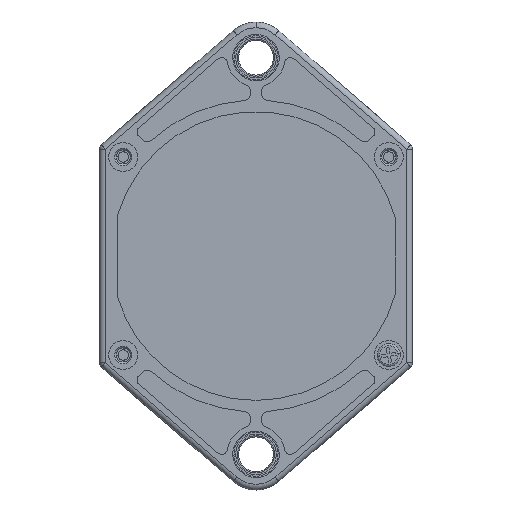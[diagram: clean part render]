
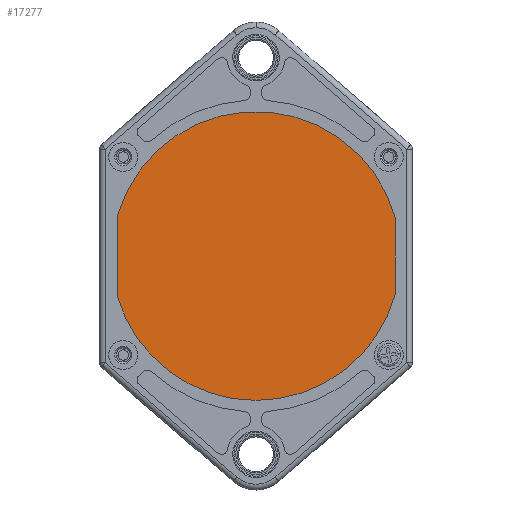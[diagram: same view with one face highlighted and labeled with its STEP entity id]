
A CAD part, front view. The second image highlights one B-rep face of the part: STEP entity #17277.
In plain terms, the highlighted planar face has unit normal (0, -1, 0).
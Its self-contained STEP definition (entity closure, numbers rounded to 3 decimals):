
#204 = CARTESIAN_POINT ( 'NONE',  ( 0., 0.4, 0. ) ) ;
#525 = VECTOR ( 'NONE', #17669, 1000. ) ;
#974 = ORIENTED_EDGE ( 'NONE', *, *, #14859, .T. ) ;
#1319 = CARTESIAN_POINT ( 'NONE',  ( 24., 0.4, -6.634 ) ) ;
#2257 = ORIENTED_EDGE ( 'NONE', *, *, #11608, .T. ) ;
#3275 = AXIS2_PLACEMENT_3D ( 'NONE', #21253, #10626, #25573 ) ;
#3409 = ORIENTED_EDGE ( 'NONE', *, *, #14736, .T. ) ;
#5439 = CARTESIAN_POINT ( 'NONE',  ( 24., 0.4, 6.634 ) ) ;
#5525 = DIRECTION ( 'NONE',  ( 0., 0., -1. ) ) ;
#5651 = VERTEX_POINT ( 'NONE', #27381 ) ;
#5695 = EDGE_CURVE ( 'NONE', #5651, #14648, #7588, .T. ) ;
#5740 = CARTESIAN_POINT ( 'NONE',  ( 24., 0.4, 6.634 ) ) ;
#5852 = DIRECTION ( 'NONE',  ( 0., -1., 0. ) ) ;
#7588 = CIRCLE ( 'NONE', #20700, 24.9 ) ;
#9951 = DIRECTION ( 'NONE',  ( 0., -1., 0. ) ) ;
#10228 = VECTOR ( 'NONE', #16423, 1000. ) ;
#10621 = LINE ( 'NONE', #11210, #525 ) ;
#10626 = DIRECTION ( 'NONE',  ( 0., -1., 0. ) ) ;
#11210 = CARTESIAN_POINT ( 'NONE',  ( -23.9, 0.4, -6.986 ) ) ;
#11544 = CIRCLE ( 'NONE', #3275, 24.9 ) ;
#11608 = EDGE_CURVE ( 'NONE', #26514, #22890, #10621, .T. ) ;
#13479 = ORIENTED_EDGE ( 'NONE', *, *, #5695, .T. ) ;
#14648 = VERTEX_POINT ( 'NONE', #1319 ) ;
#14736 = EDGE_CURVE ( 'NONE', #14648, #23100, #15914, .T. ) ;
#14859 = EDGE_CURVE ( 'NONE', #23100, #26514, #11544, .T. ) ;
#14930 = DIRECTION ( 'NONE',  ( 0., 0., -1. ) ) ;
#15914 = LINE ( 'NONE', #5740, #10228 ) ;
#16352 = EDGE_CURVE ( 'NONE', #22890, #5651, #18526, .T. ) ;
#16423 = DIRECTION ( 'NONE',  ( 0., 0., 1. ) ) ;
#17068 = ORIENTED_EDGE ( 'NONE', *, *, #16352, .T. ) ;
#17260 = AXIS2_PLACEMENT_3D ( 'NONE', #22681, #9951, #5525 ) ;
#17277 = ADVANCED_FACE ( 'NONE', ( #22505 ), #26548, .T. ) ;
#17451 = DIRECTION ( 'NONE',  ( 0., -1., 0. ) ) ;
#17669 = DIRECTION ( 'NONE',  ( 0., 0., -1. ) ) ;
#18051 = DIRECTION ( 'NONE',  ( 0., 0., -1. ) ) ;
#18526 = CIRCLE ( 'NONE', #17260, 24.9 ) ;
#20202 = EDGE_LOOP ( 'NONE', ( #17068, #13479, #3409, #974, #2257 ) ) ;
#20700 = AXIS2_PLACEMENT_3D ( 'NONE', #204, #17451, #14930 ) ;
#21164 = CARTESIAN_POINT ( 'NONE',  ( -23.9, 0.4, 6.986 ) ) ;
#21253 = CARTESIAN_POINT ( 'NONE',  ( 0., 0.4, 0. ) ) ;
#22135 = CARTESIAN_POINT ( 'NONE',  ( -23.9, 0.4, -6.986 ) ) ;
#22505 = FACE_OUTER_BOUND ( 'NONE', #20202, .T. ) ;
#22681 = CARTESIAN_POINT ( 'NONE',  ( 0., 0.4, 0. ) ) ;
#22890 = VERTEX_POINT ( 'NONE', #22135 ) ;
#23100 = VERTEX_POINT ( 'NONE', #5439 ) ;
#25573 = DIRECTION ( 'NONE',  ( 0., 0., -1. ) ) ;
#26514 = VERTEX_POINT ( 'NONE', #21164 ) ;
#26548 = PLANE ( 'NONE',  #27509 ) ;
#27116 = CARTESIAN_POINT ( 'NONE',  ( 0., 0.4, 0. ) ) ;
#27381 = CARTESIAN_POINT ( 'NONE',  ( 0., 0.4, -24.9 ) ) ;
#27509 = AXIS2_PLACEMENT_3D ( 'NONE', #27116, #5852, #18051 ) ;
